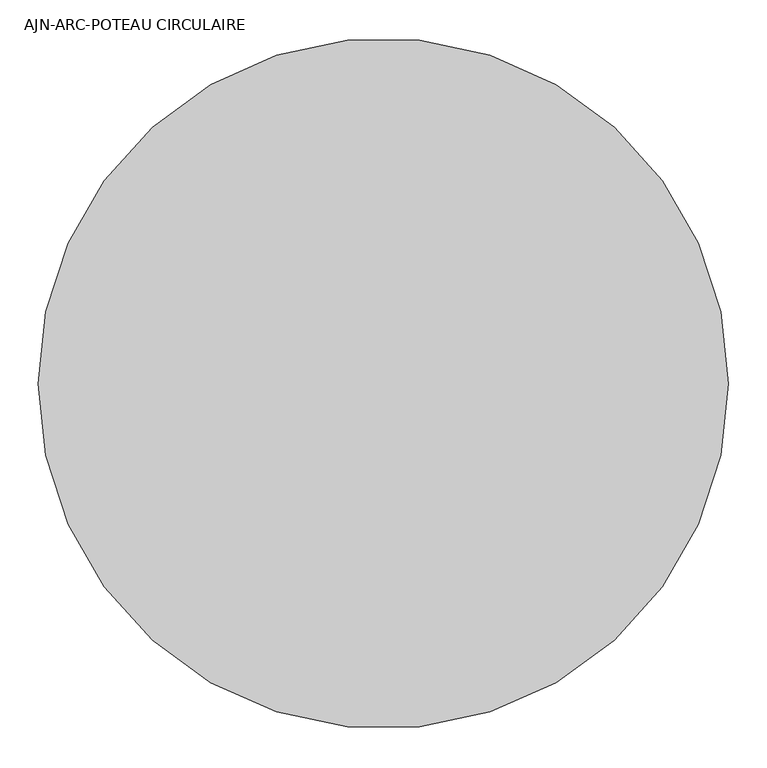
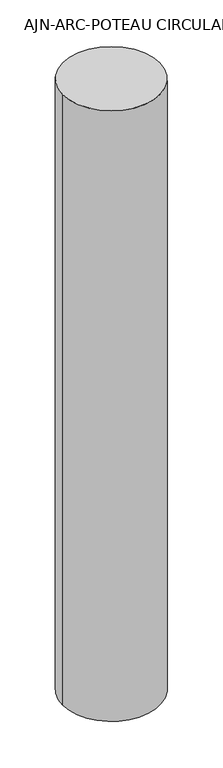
"""IFC4 building model written with IfcOpenShell, lengths in millimetres: column geometry, AJN-ARC-POTEAU CIRCULAIRE : ø90."""

from ifc_helpers import new_model, si_unit, point, frame, origin, origin_2d, place, context, project, spatial, circle_curve, trimmed, segment, composite_curve, outline, extrude, source, transform, mapped, element, save


def ajn_arc_poteau_circulaire_cd6ccd54(model_context):
    return source(origin(), model_context, "Body", "SweptSolid", [
        extrude(outline(composite_curve([segment(trimmed(circle_curve(origin_2d(), 450.0), [point((-450.0, 0.0))], [point((450.0, 0.0))], False, "CARTESIAN"), True, "CONTINUOUS"), segment(trimmed(circle_curve(origin_2d(), 450.0), [point((450.0, 0.0))], [point((-450.0, 0.0))], False, "CARTESIAN"), True, "CONTINUOUS")], self_intersect=False)), frame((0.0, 0.0, -3.14e-05), z_axis=(0.0, 0.0, 1.0), x_axis=(1.0, 0.0, 0.0)), (0.0, 0.0, 1.0), 6000.0),
    ])


if __name__ == "__main__":
    model = new_model("IFC4")
    model_context = context("Model", 3, world=origin())
    ifc_project = project(units=[si_unit("LENGTHUNIT", "METRE", prefix="MILLI")], contexts=[model_context])
    site = spatial("IfcSite", under=ifc_project)
    building = spatial("IfcBuilding", under=site)
    placement = place(None, origin())
    ajn_arc_poteau_circulaire_shape = ajn_arc_poteau_circulaire_cd6ccd54(model_context)
    element("IfcColumn", 1, ObjectType="AJN-ARC-POTEAU CIRCULAIRE : ø90", at=placement, inside=building, context=model_context, shape_type="MappedRepresentation", body=[
        mapped(ajn_arc_poteau_circulaire_shape, transform((0.0, 0.0, 0.0), x_axis=(1.0, 0.0, 0.0), y_axis=(0.0, 1.0, 0.0), z_axis=(0.0, 0.0, 1.0))),
    ])
    save(model, "model.ifc")
